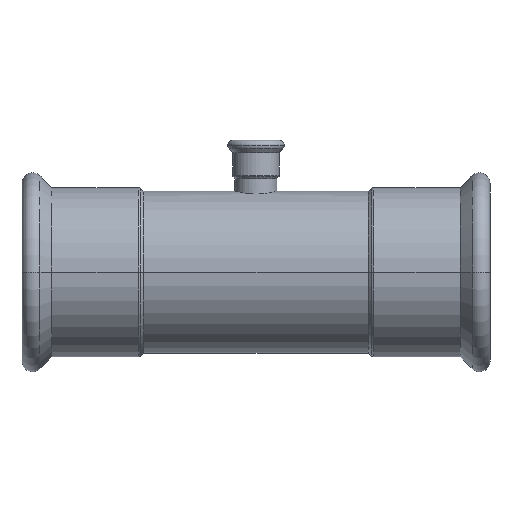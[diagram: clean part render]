
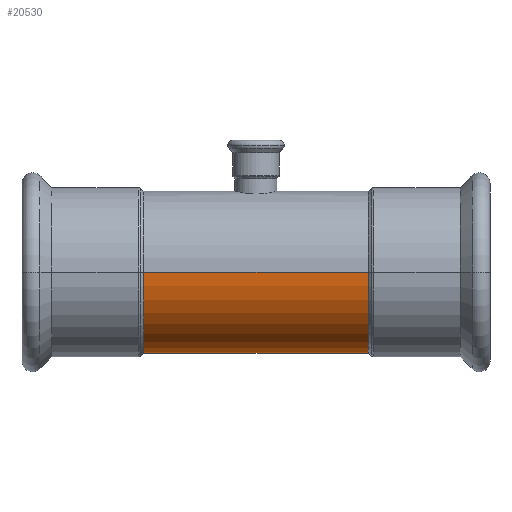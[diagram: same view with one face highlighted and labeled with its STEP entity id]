
A CAD part, front view. The second image highlights one B-rep face of the part: STEP entity #20530.
In plain terms, the highlighted cylindrical face has radius 54 mm (diameter 108 mm), a partial arc.
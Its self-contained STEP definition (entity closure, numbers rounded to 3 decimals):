
#13150=CARTESIAN_POINT('',(-329.306,-20.327,0.));
#13160=DIRECTION('',(1.,0.,0.));
#13170=DIRECTION('',(0.,0.,-1.));
#13180=AXIS2_PLACEMENT_3D('',#13150,#13160,#13170);
#13190=CYLINDRICAL_SURFACE('',#13180,54.);
#20170=CARTESIAN_POINT('',(-329.306,-20.327,54.));
#20180=DIRECTION('',(1.,0.,0.));
#20190=VECTOR('',#20180,1.);
#20200=LINE('',#20170,#20190);
#20210=CARTESIAN_POINT('',(-479.306,-20.327,54.));
#20220=VERTEX_POINT('',#20210);
#20230=CARTESIAN_POINT('',(-329.306,-20.327,54.));
#20240=VERTEX_POINT('',#20230);
#20250=EDGE_CURVE('',#20220,#20240,#20200,.T.);
#20260=ORIENTED_EDGE('',*,*,#20250,.F.);
#20270=CARTESIAN_POINT('',(-329.306,-20.327,0.));
#20280=DIRECTION('',(1.,0.,0.));
#20290=DIRECTION('',(0.,0.,1.));
#20300=AXIS2_PLACEMENT_3D('',#20270,#20280,#20290);
#20310=CIRCLE('',#20300,54.);
#20320=CARTESIAN_POINT('',(-329.306,-20.327,-54.));
#20330=VERTEX_POINT('',#20320);
#20340=EDGE_CURVE('',#20240,#20330,#20310,.T.);
#20350=ORIENTED_EDGE('',*,*,#20340,.F.);
#20360=CARTESIAN_POINT('',(-329.306,-20.327,-54.));
#20370=DIRECTION('',(1.,0.,0.));
#20380=VECTOR('',#20370,1.);
#20390=LINE('',#20360,#20380);
#20400=CARTESIAN_POINT('',(-479.306,-20.327,-54.));
#20410=VERTEX_POINT('',#20400);
#20420=EDGE_CURVE('',#20410,#20330,#20390,.T.);
#20430=ORIENTED_EDGE('',*,*,#20420,.T.);
#20440=CARTESIAN_POINT('',(-479.306,-20.327,0.));
#20450=DIRECTION('',(1.,0.,0.));
#20460=DIRECTION('',(0.,0.,-1.));
#20470=AXIS2_PLACEMENT_3D('',#20440,#20450,#20460);
#20480=CIRCLE('',#20470,54.);
#20490=EDGE_CURVE('',#20220,#20410,#20480,.T.);
#20500=ORIENTED_EDGE('',*,*,#20490,.T.);
#20510=EDGE_LOOP('',(#20500,#20430,#20350,#20260));
#20520=FACE_OUTER_BOUND('',#20510,.T.);
#20530=ADVANCED_FACE('',(#20520),#13190,.T.);
